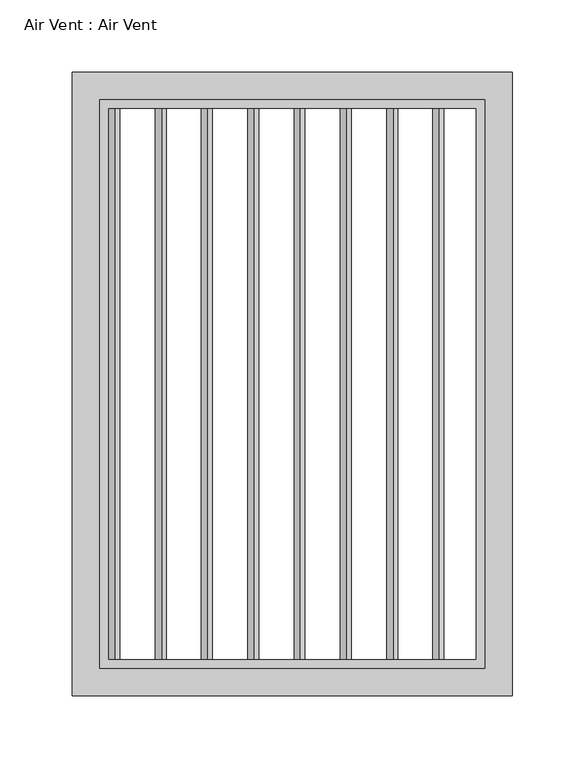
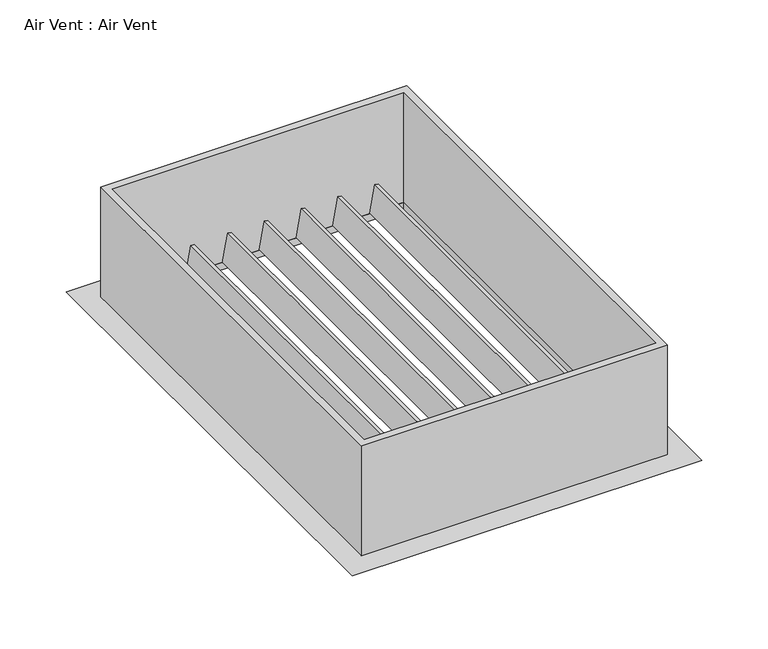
"""IFC4 building model written with IfcOpenShell, lengths in millimetres: proxy geometry, Air Vent : Air Vent."""

from ifc_helpers import new_model, si_unit, frame, origin, place, context, project, spatial, polyline, outline, extrude, faceted_brep, source, transform, mapped, element, save


def air_vent_air_vent_ff3797d8(model_context):
    return source(origin(), model_context, "Body", "SolidModel", [
        extrude(outline(polyline([(0.0, -3.175), (0.0, 0.0), (381.0, 0.0), (381.0, -3.175), (0.0, -3.175)])), frame((-94.9418006, -190.5, 2438.951333), z_axis=(0.1736481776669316, 0.0, 0.9848077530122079), x_axis=(0.0, 1.0, 0.0)), (0.0, 0.0, 1.0), 25.4),
        extrude(outline(polyline([(0.0, -3.175), (0.0, 0.0), (381.0, 0.0), (381.0, -3.175), (0.0, -3.175)])), frame((-62.8836012, -190.5, 2438.951333), z_axis=(0.1736481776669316, 0.0, 0.9848077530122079), x_axis=(0.0, 1.0, 0.0)), (0.0, 0.0, 1.0), 25.4),
        extrude(outline(polyline([(0.0, -3.175), (0.0, 0.0), (381.0, 0.0), (381.0, -3.175), (0.0, -3.175)])), frame((-30.8254018, -190.5, 2438.951333), z_axis=(0.1736481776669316, 0.0, 0.9848077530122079), x_axis=(0.0, 1.0, 0.0)), (0.0, 0.0, 1.0), 25.4),
        extrude(outline(polyline([(0.0, -3.1750001), (0.0, 0.0), (381.0, 0.0), (381.0, -3.1750001), (0.0, -3.1750001)])), frame((1.2327975, -190.5, 2438.951333), z_axis=(0.1736481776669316, 0.0, 0.9848077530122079), x_axis=(0.0, 1.0, 0.0)), (0.0, 0.0, 1.0), 25.4),
        extrude(outline(polyline([(0.0, -3.175), (0.0, 0.0), (381.0, 0.0), (381.0, -3.175), (0.0, -3.175)])), frame((33.2909969, -190.5, 2438.951333), z_axis=(0.1736481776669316, 0.0, 0.9848077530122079), x_axis=(0.0, 1.0, 0.0)), (0.0, 0.0, 1.0), 25.4),
        extrude(outline(polyline([(0.0, -3.175), (0.0, 0.0), (381.0, 0.0), (381.0, -3.175), (0.0, -3.175)])), frame((65.3491963, -190.5, 2438.951333), z_axis=(0.1736481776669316, 0.0, 0.9848077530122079), x_axis=(0.0, 1.0, 0.0)), (0.0, 0.0, 1.0), 25.4),
        extrude(outline(polyline([(0.0, -3.175), (0.0, 0.0), (381.0, 0.0), (381.0, -3.175), (0.0, -3.175)])), frame((97.4073957, -190.5, 2438.951333), z_axis=(0.1736481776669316, 0.0, 0.9848077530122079), x_axis=(0.0, 1.0, 0.0)), (0.0, 0.0, 1.0), 25.4),
        extrude(outline(polyline([(0.0, -3.175), (0.0, 0.0), (381.0, 0.0), (381.0, -3.175), (0.0, -3.175)])), frame((-127.0, -190.5, 2438.951333), z_axis=(0.1736481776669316, 0.0, 0.9848077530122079), x_axis=(0.0, 1.0, 0.0)), (0.0, 0.0, 1.0), 25.4),
        faceted_brep([(127.0, 190.5, 2438.4), (127.0, 190.5, 2432.05), (127.0, -190.5, 2432.05), (127.0, -190.5, 2438.4), (-127.0, -190.5, 2432.05), (-127.0, -190.5, 2438.4), (-127.0, 190.5, 2432.05), (-127.0, 190.5, 2438.4), (139.7, -203.2, 2432.05), (-139.7, -203.2, 2432.05), (-139.7, 203.2, 2432.05), (139.7, 203.2, 2432.05), (152.4, 215.9, 2438.4), (-152.4, 215.9, 2438.4), (-152.4, -215.9, 2438.4), (152.4, -215.9, 2438.4)], [[[0, 1, 2, 3]], [[3, 2, 4, 5]], [[5, 4, 6, 7]], [[8, 9, 10, 11], [1, 6, 4, 2]], [[12, 13, 14, 15], [3, 5, 7, 0]], [[7, 6, 1, 0]], [[11, 12, 15, 8]], [[8, 15, 14, 9]], [[9, 14, 13, 10]], [[10, 13, 12, 11]]]),
        extrude(outline(polyline([(133.35, 196.85), (133.35, -196.85), (-133.35, -196.85), (-133.35, 196.85), (133.35, 196.85)]), holes=[polyline([(127.0, 190.5), (-127.0, 190.5), (-127.0, -190.5), (127.0, -190.5), (127.0, 190.5)])]), frame((0.0, 0.0, 2438.4), z_axis=(0.0, 0.0, 1.0), x_axis=(1.0, 0.0, 0.0)), (0.0, 0.0, 1.0), 101.6),
    ])


if __name__ == "__main__":
    model = new_model("IFC4")
    model_context = context("Model", 3, world=origin())
    ifc_project = project(units=[si_unit("LENGTHUNIT", "METRE", prefix="MILLI")], contexts=[model_context])
    site = spatial("IfcSite", under=ifc_project)
    building = spatial("IfcBuilding", under=site)
    placement = place(None, origin())
    air_vent_air_vent_shape = air_vent_air_vent_ff3797d8(model_context)
    element("IfcBuildingElementProxy", 1, Name="Air Vent : Air Vent", ObjectType="Air Vent : Air Vent", at=placement, inside=building, context=model_context, shape_type="MappedRepresentation", body=[
        mapped(air_vent_air_vent_shape, transform((0.0, 0.0, 0.0), x_axis=(1.0, 0.0, 0.0), y_axis=(0.0, 1.0, 0.0), z_axis=(0.0, 0.0, 1.0))),
    ])
    save(model, "model.ifc")
